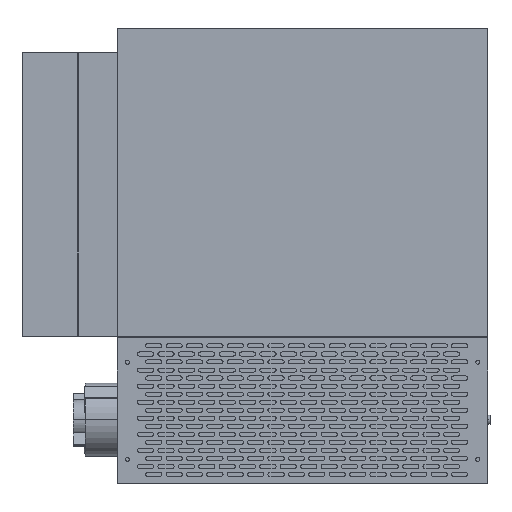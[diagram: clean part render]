
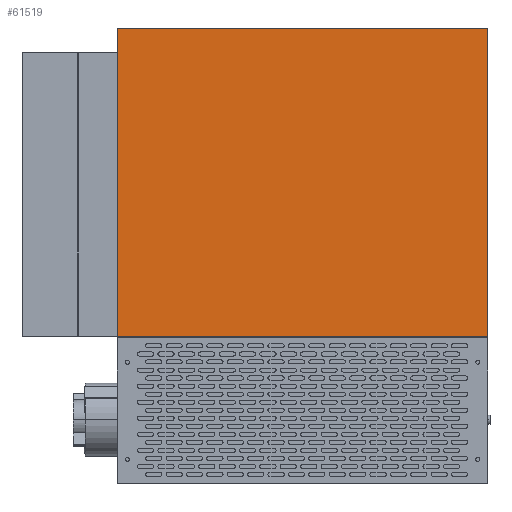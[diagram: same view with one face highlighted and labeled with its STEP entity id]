
A CAD part, top view. The second image highlights one B-rep face of the part: STEP entity #61519.
In plain terms, the highlighted planar face has unit normal (0, 0, 1).
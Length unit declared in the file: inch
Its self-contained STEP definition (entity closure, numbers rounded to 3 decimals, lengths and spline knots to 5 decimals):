
#8601 = CARTESIAN_POINT ( 'NONE',  ( 9., 22.125, 2.5625 ) ) ;
#8947 = ORIENTED_EDGE ( 'NONE', *, *, #23386, .F. ) ;
#11544 = CARTESIAN_POINT ( 'NONE',  ( -9., 7.164, 2.5625 ) ) ;
#11974 = VECTOR ( 'NONE', #72197, 39.37008 ) ;
#14132 = LINE ( 'NONE', #14515, #29212 ) ;
#14515 = CARTESIAN_POINT ( 'NONE',  ( -9., 22.125, 2.5625 ) ) ;
#17205 = ORIENTED_EDGE ( 'NONE', *, *, #61700, .T. ) ;
#18988 = DIRECTION ( 'NONE',  ( 1., 0., 0. ) ) ;
#19730 = VECTOR ( 'NONE', #24917, 39.37008 ) ;
#22318 = DIRECTION ( 'NONE',  ( 0., 0., -1. ) ) ;
#23386 = EDGE_CURVE ( 'NONE', #47993, #43904, #32496, .T. ) ;
#23410 = DIRECTION ( 'NONE',  ( -1., 0., 0. ) ) ;
#24917 = DIRECTION ( 'NONE',  ( 0., -1., 0. ) ) ;
#25673 = FACE_OUTER_BOUND ( 'NONE', #37822, .T. ) ;
#26160 = VECTOR ( 'NONE', #64228, 39.37008 ) ;
#28257 = EDGE_CURVE ( 'NONE', #70955, #47993, #64283, .T. ) ;
#28387 = ORIENTED_EDGE ( 'NONE', *, *, #71103, .F. ) ;
#29046 = CARTESIAN_POINT ( 'NONE',  ( -9., 22.125, 2.5625 ) ) ;
#29212 = VECTOR ( 'NONE', #18988, 39.37008 ) ;
#32496 = LINE ( 'NONE', #67710, #11974 ) ;
#37822 = EDGE_LOOP ( 'NONE', ( #17205, #8947, #56741, #28387 ) ) ;
#43904 = VERTEX_POINT ( 'NONE', #11544 ) ;
#46055 = PLANE ( 'NONE',  #54567 ) ;
#46787 = LINE ( 'NONE', #70147, #26160 ) ;
#47993 = VERTEX_POINT ( 'NONE', #58364 ) ;
#50422 = VERTEX_POINT ( 'NONE', #29046 ) ;
#50526 = CARTESIAN_POINT ( 'NONE',  ( -9., 22.125, 2.5625 ) ) ;
#54567 = AXIS2_PLACEMENT_3D ( 'NONE', #50526, #22318, #23410 ) ;
#56741 = ORIENTED_EDGE ( 'NONE', *, *, #28257, .F. ) ;
#58364 = CARTESIAN_POINT ( 'NONE',  ( 9., 7.164, 2.5625 ) ) ;
#61077 = CARTESIAN_POINT ( 'NONE',  ( 9., 22.125, 2.5625 ) ) ;
#61519 = ADVANCED_FACE ( 'NONE', ( #25673 ), #46055, .F. ) ;
#61700 = EDGE_CURVE ( 'NONE', #50422, #43904, #46787, .T. ) ;
#64228 = DIRECTION ( 'NONE',  ( 0., -1., 0. ) ) ;
#64283 = LINE ( 'NONE', #8601, #19730 ) ;
#67710 = CARTESIAN_POINT ( 'NONE',  ( -9., 7.164, 2.5625 ) ) ;
#70147 = CARTESIAN_POINT ( 'NONE',  ( -9., 22.125, 2.5625 ) ) ;
#70955 = VERTEX_POINT ( 'NONE', #61077 ) ;
#71103 = EDGE_CURVE ( 'NONE', #50422, #70955, #14132, .T. ) ;
#72197 = DIRECTION ( 'NONE',  ( -1., 0., 0. ) ) ;
